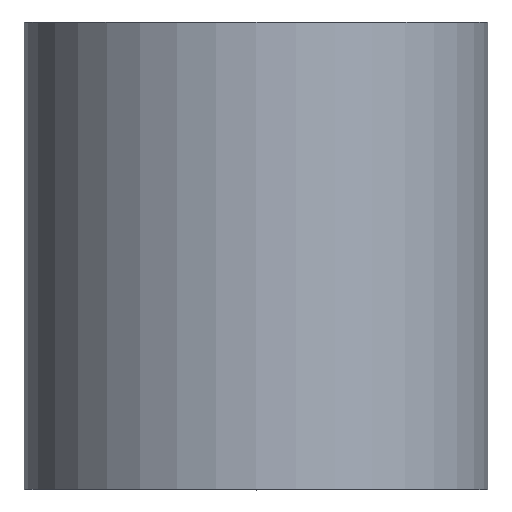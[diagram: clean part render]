
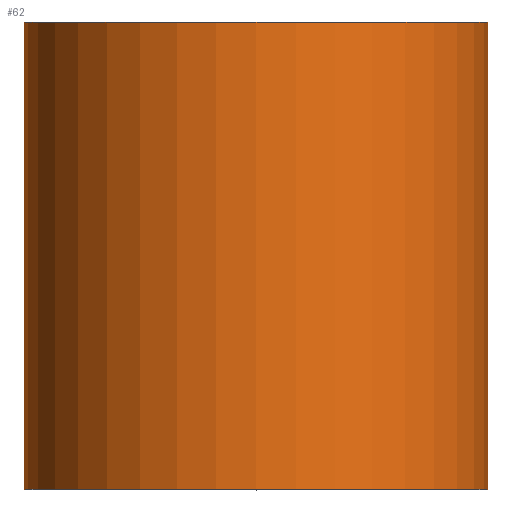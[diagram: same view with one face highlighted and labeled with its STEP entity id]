
A CAD part, top view. The second image highlights one B-rep face of the part: STEP entity #62.
In plain terms, the highlighted cylindrical face has radius 15.875 mm (diameter 31.75 mm), a full revolution.
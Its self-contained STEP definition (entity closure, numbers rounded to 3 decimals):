
#20=FACE_OUTER_BOUND('',#24,.T.);
#24=EDGE_LOOP('',(#51,#52,#53,#54));
#30=LINE('',#118,#32);
#32=VECTOR('',#100,15.875);
#35=CIRCLE('',#83,15.875);
#36=CIRCLE('',#84,15.875);
#39=VERTEX_POINT('',#115);
#40=VERTEX_POINT('',#117);
#44=EDGE_CURVE('',#39,#39,#35,.T.);
#45=EDGE_CURVE('',#39,#40,#30,.T.);
#46=EDGE_CURVE('',#40,#40,#36,.T.);
#51=ORIENTED_EDGE('',*,*,#44,.F.);
#52=ORIENTED_EDGE('',*,*,#45,.T.);
#53=ORIENTED_EDGE('',*,*,#46,.T.);
#54=ORIENTED_EDGE('',*,*,#45,.F.);
#60=CYLINDRICAL_SURFACE('',#82,15.875);
#62=ADVANCED_FACE('',(#20),#60,.T.);
#82=AXIS2_PLACEMENT_3D('',#114,#96,#97);
#83=AXIS2_PLACEMENT_3D('',#116,#98,#99);
#84=AXIS2_PLACEMENT_3D('',#119,#101,#102);
#96=DIRECTION('center_axis',(0.,1.,0.));
#97=DIRECTION('ref_axis',(1.,0.,0.));
#98=DIRECTION('center_axis',(0.,1.,0.));
#99=DIRECTION('ref_axis',(1.,0.,0.));
#100=DIRECTION('',(0.,-1.,0.));
#101=DIRECTION('center_axis',(0.,1.,0.));
#102=DIRECTION('ref_axis',(1.,0.,0.));
#114=CARTESIAN_POINT('Origin',(0.,0.,0.));
#115=CARTESIAN_POINT('',(-15.875,32.004,0.));
#116=CARTESIAN_POINT('Origin',(0.,32.004,0.));
#117=CARTESIAN_POINT('',(-15.875,0.,0.));
#118=CARTESIAN_POINT('',(-15.875,0.,0.));
#119=CARTESIAN_POINT('Origin',(0.,0.,0.));
